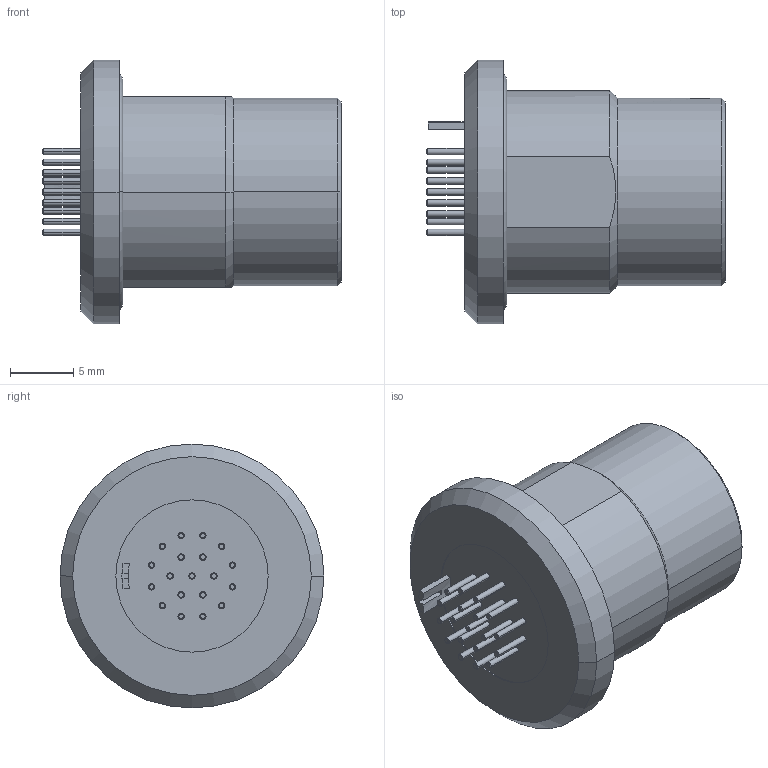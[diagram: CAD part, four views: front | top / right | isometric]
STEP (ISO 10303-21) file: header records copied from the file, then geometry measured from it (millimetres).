
FILE_DESCRIPTION((''),'2;1');
FILE_NAME('GK2Y_R-P19UF00-000L_WITHOUT-HEX','2020-10-23T11:37:02',('EUnterhaslberger'),(''),'CREO PARAMETRIC BY PTC INC, 2018300','CREO PARAMETRIC BY PTC INC, 2018300','');
FILE_SCHEMA(('AP242_MANAGED_MODEL_BASED_3D_ENGINEERING_MIM_LF { 1 0 10303 442 1 1 4 }'));
Length unit declared in the file: millimetre
Products named in the file (1): GK2Y_R-P19UF00-000L_WITHOUT-HEX
Bounding box: 23.5 x 20.8 x 20.8 mm (x, y, z)
Volume: 3408.1 mm3; surface area: 3193.8 mm2
Topology: 2 solids, 2 shells, 276 faces, 637 edges, 410 vertices
Faces by surface type: cone 91, plane 84, cylinder 77, torus 24
Entity records: 9719 total; most frequent: CARTESIAN_POINT 1597, DIRECTION 1479, ORIENTED_EDGE 1274, EDGE_CURVE 637, AXIS2_PLACEMENT_3D 618, VERTEX_POINT 410, CIRCLE 342, EDGE_LOOP 323
